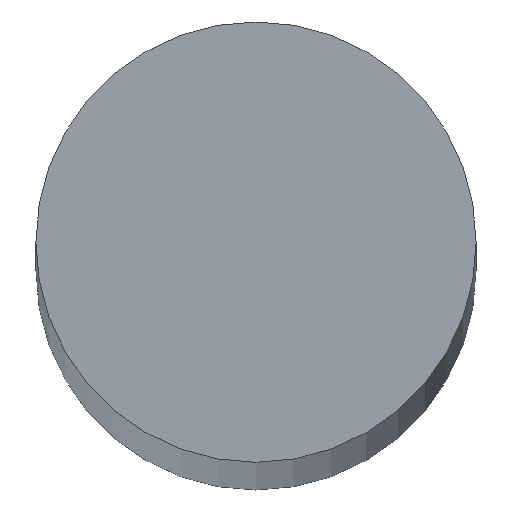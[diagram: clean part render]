
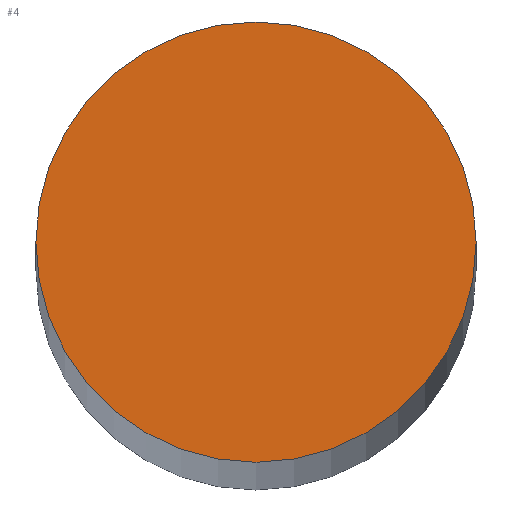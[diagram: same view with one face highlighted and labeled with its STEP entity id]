
A CAD part, top view. The second image highlights one B-rep face of the part: STEP entity #4.
In plain terms, the highlighted planar face has unit normal (0, 0, 1).
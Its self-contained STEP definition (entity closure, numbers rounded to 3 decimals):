
#4 = ADVANCED_FACE ( 'NONE', ( #82 ), #21, .T. ) ;
#21 = PLANE ( 'NONE',  #138 ) ;
#23 = CARTESIAN_POINT ( 'NONE',  ( 0., 0., 216.5 ) ) ;
#24 = DIRECTION ( 'NONE',  ( 0., 0., 1. ) ) ;
#25 = DIRECTION ( 'NONE',  ( 1., 0., 0. ) ) ;
#26 = CARTESIAN_POINT ( 'NONE',  ( 6., 0., 216.5 ) ) ;
#35 = CARTESIAN_POINT ( 'NONE',  ( -6., 0., 216.5 ) ) ;
#38 = CARTESIAN_POINT ( 'NONE',  ( 0., 0., 216.5 ) ) ;
#39 = DIRECTION ( 'NONE',  ( 0., 0., 1. ) ) ;
#40 = DIRECTION ( 'NONE',  ( 1., 0., 0. ) ) ;
#44 = CARTESIAN_POINT ( 'NONE',  ( 0., 0., 216.5 ) ) ;
#46 = DIRECTION ( 'NONE',  ( 0., 0., 1. ) ) ;
#47 = DIRECTION ( 'NONE',  ( 1., 0., 0. ) ) ;
#82 = FACE_OUTER_BOUND ( 'NONE', #86, .T. ) ;
#86 = EDGE_LOOP ( 'NONE', ( #96, #95 ) ) ;
#95 = ORIENTED_EDGE ( 'NONE', *, *, #134, .T. ) ;
#96 = ORIENTED_EDGE ( 'NONE', *, *, #129, .T. ) ;
#108 = CIRCLE ( 'NONE', #130, 6. ) ;
#110 = CIRCLE ( 'NONE', #121, 6. ) ;
#121 = AXIS2_PLACEMENT_3D ( 'NONE', #44, #46, #47 ) ;
#122 = VERTEX_POINT ( 'NONE', #26 ) ;
#123 = VERTEX_POINT ( 'NONE', #35 ) ;
#129 = EDGE_CURVE ( 'NONE', #123, #122, #108, .T. ) ;
#130 = AXIS2_PLACEMENT_3D ( 'NONE', #38, #39, #40 ) ;
#134 = EDGE_CURVE ( 'NONE', #122, #123, #110, .T. ) ;
#138 = AXIS2_PLACEMENT_3D ( 'NONE', #23, #24, #25 ) ;
